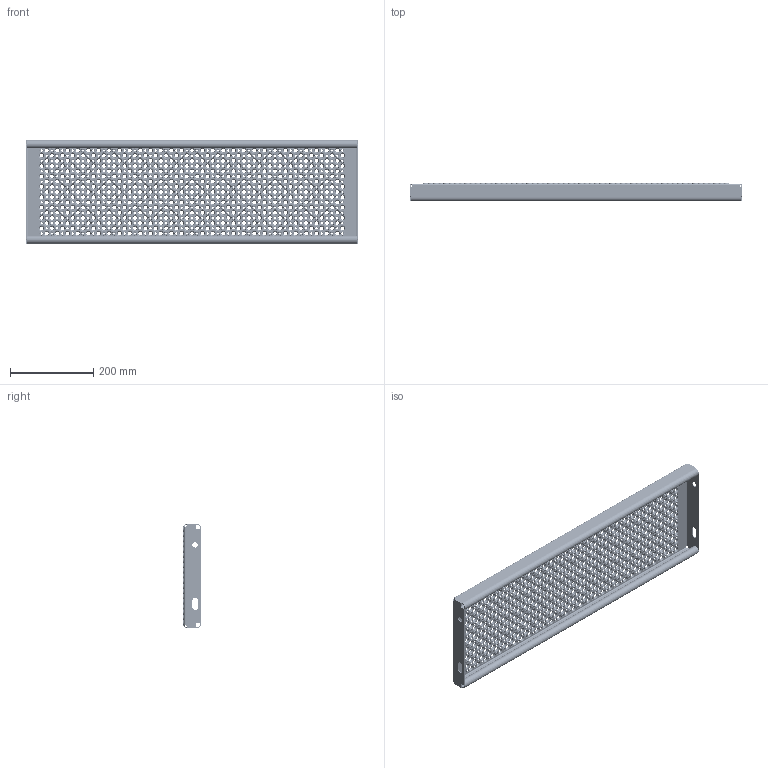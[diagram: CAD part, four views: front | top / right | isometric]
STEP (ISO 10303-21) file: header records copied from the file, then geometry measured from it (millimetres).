
FILE_DESCRIPTION (( 'STEP AP203' ), '1' );
FILE_NAME ('OPTIMO-Tread-Achil-O2-800x250x45x2-st240-F100340100_v2.STEP', '2026-04-17T05:34:42', ( '' ), ( '' ), 'SwSTEP 2.0', 'SolidWorks 2025', '' );
FILE_SCHEMA (( 'CONFIG_CONTROL_DESIGN' ));
Length unit declared in the file: millimetre
Products named in the file (1): OPTIMO-Tread-Achil-O2-800x250x45x2-st240-F100340100_v2
Bounding box: 800 x 45 x 250 mm (x, y, z)
Volume: 687050.4 mm3; surface area: 747128 mm2
Topology: 1 solids, 1 shells, 11292 faces, 29346 edges, 18056 vertices
Faces by surface type: cone 6726, torus 4484, plane 38, cylinder 36, bspline 8
Entity records: 359435 total; most frequent: DIRECTION 74360, CARTESIAN_POINT 59287, ORIENTED_EDGE 58692, AXIS2_PLACEMENT_3D 33761, EDGE_CURVE 29346, CIRCLE 22476, VERTEX_POINT 18056, EDGE_LOOP 13542
